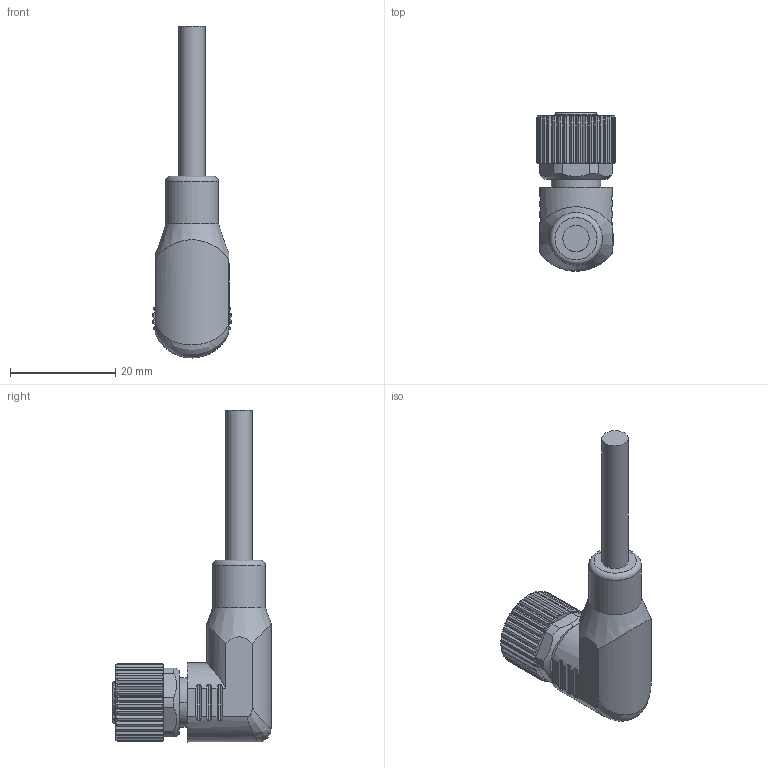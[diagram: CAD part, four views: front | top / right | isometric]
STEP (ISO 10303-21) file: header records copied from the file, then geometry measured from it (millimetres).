
FILE_DESCRIPTION(/* description */ (''),/* implementation_level */ '2;1');
FILE_NAME(/* name */ 'M12-12FR-L.stp',/* time_stamp */ '2024-07-04T16:52:10+08:00',/* author */ (''),/* organization */ (''),/* preprocessor_version */ 'ST-DEVELOPER v16.7',/* originating_system */ 'SIEMENS PLM Software NX 12.0',/* authorisation */ '');
FILE_SCHEMA (('AP203_CONFIGURATION_CONTROLLED_3D_DESIGN_OF_MECHANICAL_PARTS_AND_ASSEMBLIES_MIM_LF { 1 0 10303 403 2 1 2}'));
Length unit declared in the file: millimetre
Products named in the file (1): Admi3E98DA3A32sc
Bounding box: 14.98 x 30.05 x 63 mm (x, y, z)
Volume: 6933 mm3; surface area: 4710.4 mm2
Topology: 1 solids, 13 shells, 647 faces, 1738 edges, 1171 vertices
Faces by surface type: plane 319, cylinder 211, cone 94, extrusion 16, torus 4, bspline 3
Full cylindrical faces by diameter (mm): 0.6 x12, 0.7 x12, 1 x24, 1.2 x24, 5 x1, 10 x1
Entity records: 21795 total; most frequent: CARTESIAN_POINT 6274, ORIENTED_EDGE 3148, DIRECTION 3114, EDGE_CURVE 1574, AXIS2_PLACEMENT_3D 1166, VERTEX_POINT 1096, EDGE_LOOP 814, VECTOR 782
